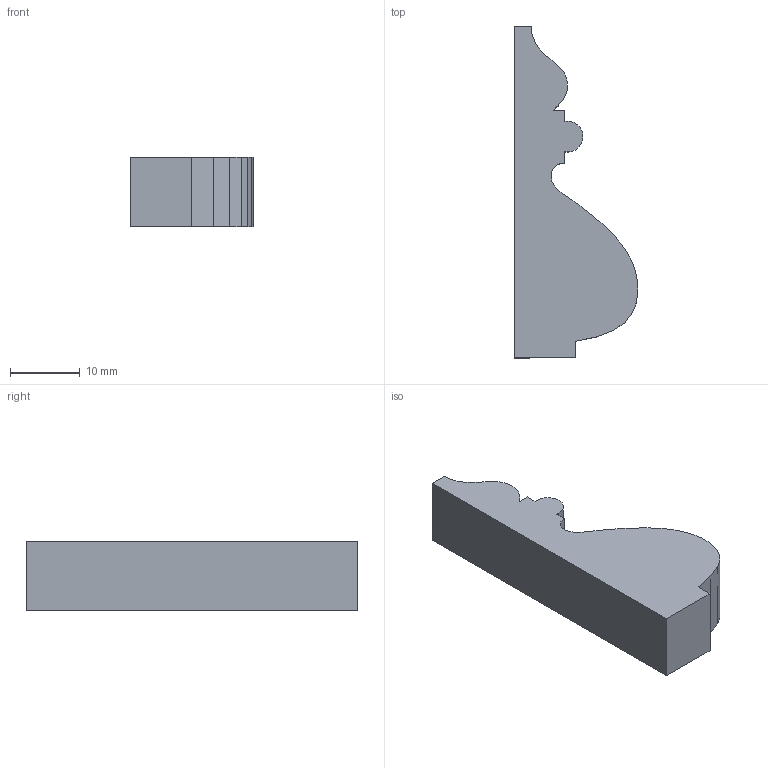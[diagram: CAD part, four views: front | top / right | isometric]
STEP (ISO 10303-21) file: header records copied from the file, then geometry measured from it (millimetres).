
FILE_DESCRIPTION (( 'STEP AP203' ), '1' );
FILE_NAME ('AB009FJ.STEP', '2024-02-16T17:31:39', ( '' ), ( '' ), 'SwSTEP 2.0', 'SolidWorks 2020', '' );
FILE_SCHEMA (( 'CONFIG_CONTROL_DESIGN' ));
Length unit declared in the file: millimetre
Products named in the file (1): AB009FJ
Bounding box: 17.76 x 47.62 x 10 mm (x, y, z)
Volume: 4893.4 mm3; surface area: 2237.2 mm2
Topology: 1 solids, 1 shells, 62 faces, 180 edges, 120 vertices
Faces by surface type: plane 61, cylinder 1
Entity records: 2083 total; most frequent: CARTESIAN_POINT 363, ORIENTED_EDGE 360, DIRECTION 308, EDGE_CURVE 180, VECTOR 178, LINE 178, VERTEX_POINT 120, AXIS2_PLACEMENT_3D 65
